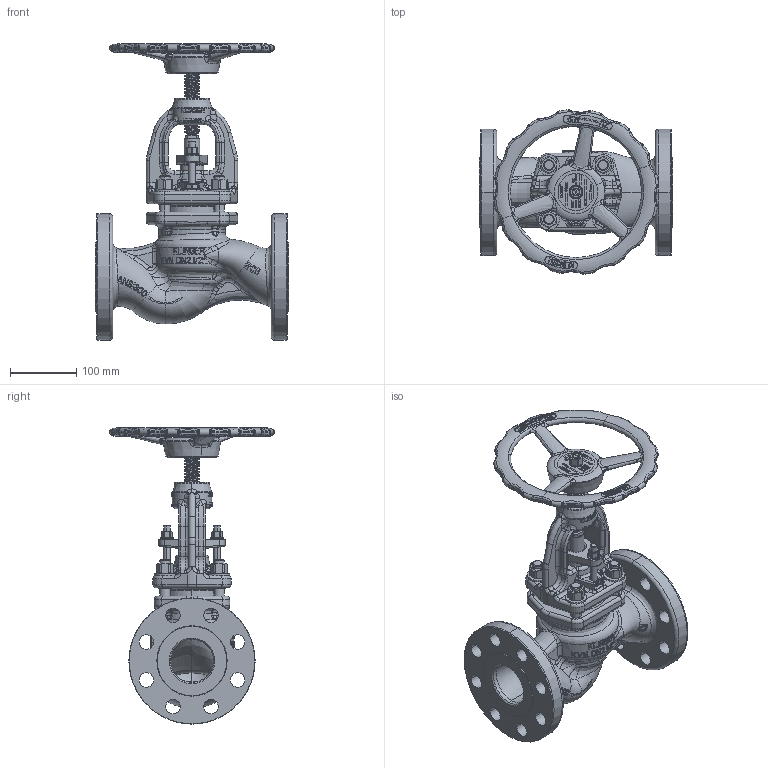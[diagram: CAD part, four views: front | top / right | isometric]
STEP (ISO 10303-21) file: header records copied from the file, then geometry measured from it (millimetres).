
FILE_DESCRIPTION((''),'2;1');
FILE_NAME('KVNFL-52S-----C300PGG_SW0001','2018-12-12T13:11:00',('jeitlers'),('KLINGER'),'CREO PARAMETRIC BY PTC INC, 2018190','CREO PARAMETRIC BY PTC INC, 2018190','');
FILE_SCHEMA(('AUTOMOTIVE_DESIGN { 1 0 10303 214 1 1 1 1 }'));
Products named in the file (1): KVNFL-52S-----C300PGG_SW0001
Bounding box: 292 x 248.94 x 448.04 mm (x, y, z)
Volume: 3556886.6 mm3; surface area: 624394.5 mm2
Topology: 2 solids, 11 shells, 4627 faces, 12215 edges, 7721 vertices
Faces by surface type: plane 2653, bspline 703, cylinder 643, torus 360, cone 215, sphere 53
Entity records: 291555 total; most frequent: CARTESIAN_POINT 184477, ORIENTED_EDGE 24426, DIRECTION 19066, EDGE_CURVE 12213, VERTEX_POINT 7721, AXIS2_PLACEMENT_3D 6635, VECTOR 5793, LINE 5793
